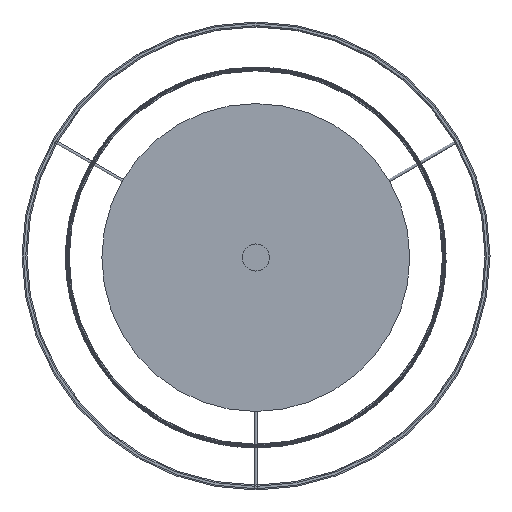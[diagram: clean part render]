
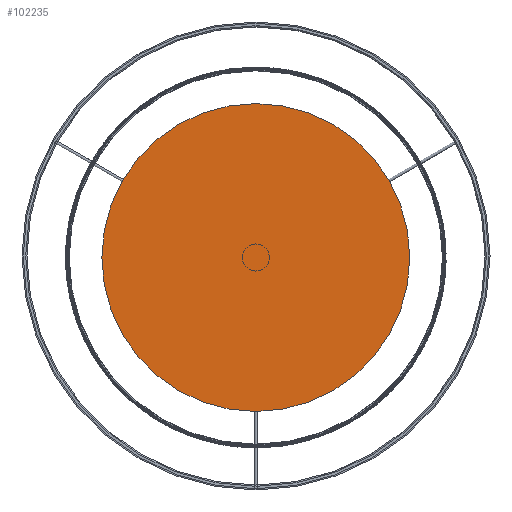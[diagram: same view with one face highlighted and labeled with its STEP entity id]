
A CAD part, front view. The second image highlights one B-rep face of the part: STEP entity #102235.
In plain terms, the highlighted planar face has unit normal (0, -1, 0).
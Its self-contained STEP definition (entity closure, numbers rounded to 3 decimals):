
#8288=PLANE('',#110117);
#26982=FACE_OUTER_BOUND('',#34010,.T.);
#34010=EDGE_LOOP('',(#71379));
#41091=CIRCLE('',#110115,125.);
#45369=VERTEX_POINT('',#149535);
#55458=EDGE_CURVE('',#45369,#45369,#41091,.T.);
#71379=ORIENTED_EDGE('',*,*,#55458,.F.);
#102235=ADVANCED_FACE('',(#26982),#8288,.F.);
#110115=AXIS2_PLACEMENT_3D('',#149537,#119202,#119203);
#110117=AXIS2_PLACEMENT_3D('',#149539,#119206,#119207);
#119202=DIRECTION('center_axis',(0.,1.,0.));
#119203=DIRECTION('ref_axis',(1.,0.,0.));
#119206=DIRECTION('center_axis',(0.,1.,0.));
#119207=DIRECTION('ref_axis',(1.,0.,0.));
#149535=CARTESIAN_POINT('',(-125.,-1113.,0.));
#149537=CARTESIAN_POINT('Origin',(0.,-1113.,0.));
#149539=CARTESIAN_POINT('Origin',(0.,-1113.,0.));
